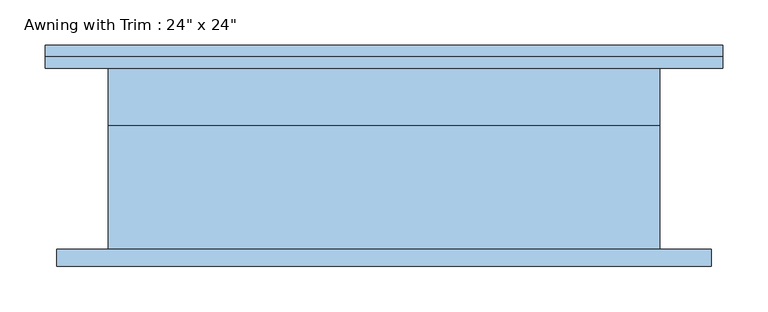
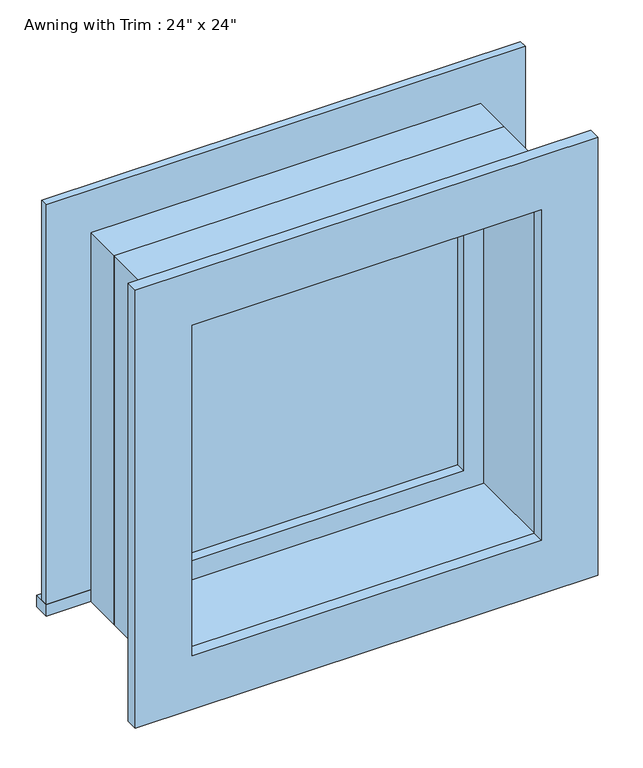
"""IFC4 building model written with IfcOpenShell, lengths in millimetres: window geometry."""

import ifcopenshell
import ifcopenshell.guid

model = None  # the IFC model being written
_history = None  # IfcOwnerHistory: only IFC2X3 demands one
_inside = {}  # id of a spatial element -> (the spatial element, [elements in it])
_under = {}  # id of a project, library or spatial element -> (it, [spatial elements below it])
_declared = {}  # id of a project -> (the project, [libraries it declares])
_typed = {}  # id of a type object -> (the type object, [elements of that type])
_made_of = {}  # id of a material, layer set ... -> (it, [elements and type objects made of it])


def new_model(schema):
    """Start an empty IFC model of exactly this schema.

    Asked for "IFC4X3", IfcOpenShell would pick the latest addendum, in which some entities
    have other attributes; the version numbers below select the first issue.
    IFC2X3 requires an IfcOwnerHistory on every rooted entity: one is made here for all.
    """
    global model, _history
    if schema == "IFC4X3":
        model = ifcopenshell.file(schema_version=(4, 3, 0, 0))
    else:
        model = ifcopenshell.file(schema=schema)
    _inside.clear()
    _under.clear()
    _declared.clear()
    _typed.clear()
    _made_of.clear()
    _history = None
    if model.schema == "IFC2X3":
        org = make("IfcOrganization", Name="unknown")
        user = make(
            "IfcPersonAndOrganization",
            ThePerson=make("IfcPerson", FamilyName="unknown"),
            TheOrganization=org,
        )
        app = make(
            "IfcApplication",
            ApplicationDeveloper=org,
            Version="unknown",
            ApplicationFullName="unknown",
            ApplicationIdentifier="unknown",
        )
        _history = make(
            "IfcOwnerHistory",
            OwningUser=user,
            OwningApplication=app,
            ChangeAction="ADDED",
            CreationDate=0,
        )
    return model


def make(cls, **values):
    """One entity of the class cls with the attributes given. An attribute that is None is left unset."""
    return model.create_entity(
        cls, **{name: value for name, value in values.items() if value is not None}
    )


def rooted(cls, **values):
    """An entity with a GlobalId (a new one), such as an element, a storey or a relation."""
    return make(cls, GlobalId=ifcopenshell.guid.new(), OwnerHistory=_history, **values)


def si_unit(unit_type, name, prefix=None):
    """IfcSIUnit, for example si_unit("LENGTHUNIT", "METRE", prefix="MILLI")."""
    return make("IfcSIUnit", UnitType=unit_type, Prefix=prefix, Name=name)


def assignment(units):
    """IfcUnitAssignment: the units of a project."""
    return None if units is None else make("IfcUnitAssignment", Units=units)


def point(xyz):
    """IfcCartesianPoint."""
    return None if xyz is None else make("IfcCartesianPoint", Coordinates=xyz)


def direction(xyz):
    """IfcDirection."""
    return None if xyz is None else make("IfcDirection", DirectionRatios=xyz)


def frame(location, z_axis=None, x_axis=None):
    """IfcAxis2Placement3D, a coordinate frame: its origin and axes. An axis left out is left unset."""
    return make(
        "IfcAxis2Placement3D",
        Location=point(location),
        Axis=direction(z_axis),
        RefDirection=direction(x_axis),
    )


def origin():
    """The frame at (0, 0, 0) with its axes left unset."""
    return frame((0.0, 0.0, 0.0))


def place(relative_to, where):
    """IfcLocalPlacement: puts the frame where relative to a parent placement (None: the world)."""
    return make(
        "IfcLocalPlacement", PlacementRelTo=relative_to, RelativePlacement=where
    )


def context(
    kind, dimensions, precision=None, world=None, true_north=None, identifier=None
):
    """IfcGeometricRepresentationContext, for example the 3D "Model" context."""
    return make(
        "IfcGeometricRepresentationContext",
        ContextIdentifier=identifier,
        ContextType=kind,
        CoordinateSpaceDimension=dimensions,
        Precision=precision,
        WorldCoordinateSystem=world,
        TrueNorth=true_north,
    )


def project(units=None, contexts=None):
    """IfcProject with its units and contexts."""
    return rooted(
        "IfcProject",
        Name="project",
        RepresentationContexts=contexts,
        UnitsInContext=assignment(units),
    )


def spatial(cls, under=None, at=None, **own):
    """A site, building, storey or space (cls), placed at a placement, below another one or the project."""
    s = rooted(cls, ObjectPlacement=at, **own)
    if under is not None:
        _under.setdefault(under.id(), (under, []))[1].append(s)
    return s


def polyline(points):
    """IfcPolyline through the points."""
    return make("IfcPolyline", Points=[point(p) for p in points])


def outline(outer, holes=None, kind="AREA"):
    """IfcArbitraryClosedProfileDef: a profile drawn as a closed curve; with holes, ...WithVoids."""
    if holes is None:
        return make("IfcArbitraryClosedProfileDef", ProfileType=kind, OuterCurve=outer)
    return make(
        "IfcArbitraryProfileDefWithVoids",
        ProfileType=kind,
        OuterCurve=outer,
        InnerCurves=holes,
    )


def extrude(swept, where, along, depth):
    """IfcExtrudedAreaSolid: the profile swept, set in the frame where, extruded along a direction by depth."""
    return make(
        "IfcExtrudedAreaSolid",
        SweptArea=swept,
        Position=where,
        ExtrudedDirection=direction(along),
        Depth=depth,
    )


def shape(context_of_items, identifier, shape_type, items):
    """IfcShapeRepresentation: the items that make up one representation, for example the "Body"."""
    return make(
        "IfcShapeRepresentation",
        ContextOfItems=context_of_items,
        RepresentationIdentifier=identifier,
        RepresentationType=shape_type,
        Items=items,
    )


def source(mapping_origin, context_of_items, identifier, shape_type, items):
    """IfcRepresentationMap: a shape defined once, which mapped items show again and again."""
    return make(
        "IfcRepresentationMap",
        MappingOrigin=mapping_origin,
        MappedRepresentation=shape(context_of_items, identifier, shape_type, items),
    )


def transform(
    local_origin,
    x_axis=None,
    y_axis=None,
    z_axis=None,
    scale=None,
    scale2=None,
    scale3=None,
    uniform=True,
):
    """IfcCartesianTransformationOperator3D, or its non-uniform kind. x_axis, y_axis, z_axis: its Axis1, 2, 3."""
    if uniform:
        return make(
            "IfcCartesianTransformationOperator3D",
            Axis1=direction(x_axis),
            Axis2=direction(y_axis),
            LocalOrigin=point(local_origin),
            Scale=scale,
            Axis3=direction(z_axis),
        )
    return make(
        "IfcCartesianTransformationOperator3DnonUniform",
        Axis1=direction(x_axis),
        Axis2=direction(y_axis),
        LocalOrigin=point(local_origin),
        Scale=scale,
        Axis3=direction(z_axis),
        Scale2=scale2,
        Scale3=scale3,
    )


def mapped(mapping_source, mapping_target):
    """IfcMappedItem: shows the shape of a source again, moved by a transform."""
    return make(
        "IfcMappedItem", MappingSource=mapping_source, MappingTarget=mapping_target
    )


def made_of(thing, what):
    """Note that an element or type object is made of a material, layer set ...; save() writes the relation."""
    if what is not None:
        _made_of.setdefault(what.id(), (what, []))[1].append(thing)
    return thing


def element(
    cls,
    number,
    at=None,
    inside=None,
    cuts=None,
    type_object=None,
    material=None,
    context=None,
    identifier="Body",
    shape_type=None,
    held_by="IfcProductDefinitionShape",
    body=None,
    shapes=None,
    **own,
):
    """One element of the class cls, such as IfcWall. Its Tag is "e" and its number.

    at: its placement. inside: the storey or other place that contains it. cuts: it is an
    opening in that element (IfcRelVoidsElement). A single representation is given by context,
    identifier, shape_type and body (its items); several are given by shapes. held_by: the class
    of the entity that holds the representations. save() writes the other relations.
    """
    e = rooted(cls, Tag="e%d" % number, ObjectPlacement=at, **own)
    if body is not None:
        shapes = [shape(context, identifier, shape_type, body)]
    if shapes is not None:
        e.Representation = make(held_by, Representations=shapes)
    if inside is not None:
        _inside.setdefault(inside.id(), (inside, []))[1].append(e)
    if cuts is not None:
        rooted(
            "IfcRelVoidsElement", RelatingBuildingElement=cuts, RelatedOpeningElement=e
        )
    if type_object is not None:
        _typed.setdefault(type_object.id(), (type_object, []))[1].append(e)
    return made_of(e, material)


def aggregate(whole, parts):
    """IfcRelAggregates: a whole, such as a stair, and the parts it consists of."""
    return rooted("IfcRelAggregates", RelatingObject=whole, RelatedObjects=parts)


def save(model, path):
    """Write the relations noted so far, then the file.

    IfcRelAggregates (storeys below a building ...), IfcRelContainedInSpatialStructure (elements
    in a storey), IfcRelDefinesByType, IfcRelAssociatesMaterial and IfcRelDeclares: one each for
    every whole, place, type object, material and project.
    """
    for whole, parts in _under.values():
        aggregate(whole, parts)
    for where, things in _inside.values():
        rooted(
            "IfcRelContainedInSpatialStructure",
            RelatedElements=things,
            RelatingStructure=where,
        )
    for kind, things in _typed.values():
        rooted("IfcRelDefinesByType", RelatedObjects=things, RelatingType=kind)
    for what, things in _made_of.values():
        rooted("IfcRelAssociatesMaterial", RelatedObjects=things, RelatingMaterial=what)
    for by, libraries in _declared.values():
        rooted("IfcRelDeclares", RelatingContext=by, RelatedDefinitions=libraries)
    model.write(path)


def window_da007f2d(model_context):
    return source(origin(), model_context, "Body", "SweptSolid", [
        extrude(outline(polyline([(-374.65, 125.4), (374.65, 125.4), (374.65, 100.0), (-374.65, 100.0), (-374.65, 125.4)])), frame((0.0, 0.0, 914.4), z_axis=(0.0, 0.0, 1.0), x_axis=(1.0, 0.0, 0.0)), (0.0, 0.0, 1.0), 19.05),
        extrude(outline(polyline([(1504.95, -285.75), (1504.95, 285.75), (933.45, 285.75), (933.45, 374.65), (1593.85, 374.65), (1593.85, -374.65), (933.45, -374.65), (933.45, -285.75), (1504.95, -285.75)])), frame((0.0, 100.0, 0.0), z_axis=(0.0, 1.0, 0.0), x_axis=(0.0, 0.0, 1.0)), (0.0, 0.0, 1.0), 12.7),
        extrude(outline(polyline([(1581.15, 361.95), (1581.15, -361.95), (857.25, -361.95), (857.25, 361.95), (1581.15, 361.95)]), holes=[polyline([(1492.25, 273.05), (946.15, 273.05), (946.15, -273.05), (1492.25, -273.05), (1492.25, 273.05)])]), frame((0.0, -119.05, 0.0), z_axis=(0.0, 1.0, 0.0), x_axis=(0.0, 0.0, 1.0)), (0.0, 0.0, 1.0), 19.05),
        extrude(outline(polyline([(241.3, 52.375), (-241.3, 52.375), (-241.3, 65.075), (241.3, 65.075), (241.3, 52.375)])), frame((0.0, 0.0, 977.9), z_axis=(0.0, 0.0, 1.0), x_axis=(1.0, 0.0, 0.0)), (0.0, 0.0, 1.0), 482.6),
        extrude(outline(polyline([(1504.95, -285.75), (933.45, -285.75), (933.45, 285.75), (1504.95, 285.75), (1504.95, -285.75)]), holes=[polyline([(1460.5, -241.3), (1460.5, 241.3), (977.9, 241.3), (977.9, -241.3), (1460.5, -241.3)])]), frame((0.0, 36.5, 0.0), z_axis=(0.0, 1.0, 0.0), x_axis=(0.0, 0.0, 1.0)), (0.0, 0.0, 1.0), 44.45),
        extrude(outline(polyline([(1524.0, -304.8), (914.4, -304.8), (914.4, 304.8), (1524.0, 304.8), (1524.0, -304.8)]), holes=[polyline([(1492.25, -273.05), (1492.25, 273.05), (946.15, 273.05), (946.15, -273.05), (1492.25, -273.05)])]), frame((0.0, -100.0, 0.0), z_axis=(0.0, 1.0, 0.0), x_axis=(0.0, 0.0, 1.0)), (0.0, 0.0, 1.0), 136.5),
        extrude(outline(polyline([(1524.0, 304.8), (1524.0, -304.8), (914.4, -304.8), (914.4, 304.8), (1524.0, 304.8)]), holes=[polyline([(1504.95, 285.75), (933.45, 285.75), (933.45, -285.75), (1504.95, -285.75), (1504.95, 285.75)])]), frame((0.0, 36.5, 0.0), z_axis=(0.0, 1.0, 0.0), x_axis=(0.0, 0.0, 1.0)), (0.0, 0.0, 1.0), 63.5),
    ])


if __name__ == "__main__":
    model = new_model("IFC4")
    model_context = context("Model", 3, world=origin())
    ifc_project = project(units=[si_unit("LENGTHUNIT", "METRE", prefix="MILLI")], contexts=[model_context])
    site = spatial("IfcSite", under=ifc_project)
    building = spatial("IfcBuilding", under=site)
    placement = place(None, origin())
    window_shape = window_da007f2d(model_context)
    element("IfcWindow", 1, ObjectType="Awning with Trim : 24\" x 24\"", at=placement, inside=building, context=model_context, shape_type="MappedRepresentation", body=[
        mapped(window_shape, transform((0.0, 0.0, 0.0), x_axis=(1.0, 0.0, 0.0), y_axis=(0.0, 1.0, 0.0), z_axis=(0.0, 0.0, 1.0))),
    ])
    save(model, "model.ifc")
